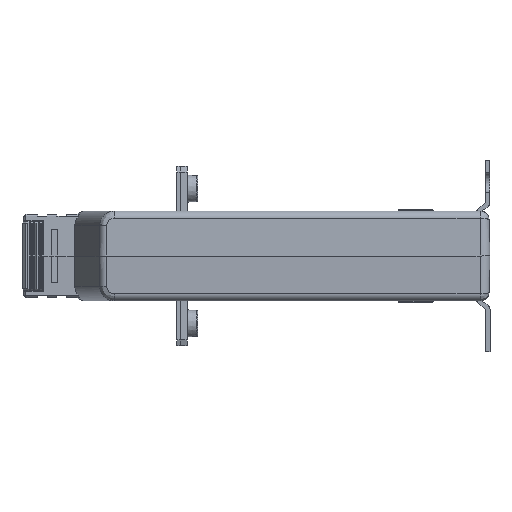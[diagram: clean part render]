
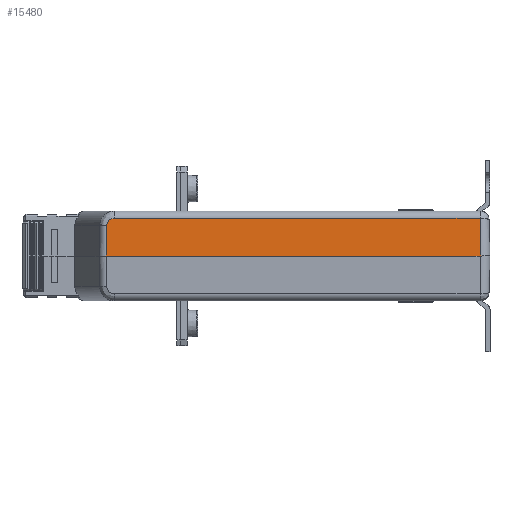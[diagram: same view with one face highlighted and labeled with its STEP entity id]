
A CAD part, left-side view. The second image highlights one B-rep face of the part: STEP entity #15480.
In plain terms, the highlighted planar face has unit normal (-1, 0, 0.026).
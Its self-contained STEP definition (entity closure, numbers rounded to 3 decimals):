
#733 = ORIENTED_EDGE ( 'NONE', *, *, #53044, .T. ) ;
#767 = DIRECTION ( 'NONE',  ( -0.026, 0.018, -0.999 ) ) ;
#1279 = CARTESIAN_POINT ( 'NONE',  ( -64.439, 58.007, 2.345 ) ) ;
#1653 = CARTESIAN_POINT ( 'NONE',  ( -64.231, 57.859, 10.256 ) ) ;
#2569 = ORIENTED_EDGE ( 'NONE', *, *, #59515, .T. ) ;
#2594 = VECTOR ( 'NONE', #6390, 1000. ) ;
#6390 = DIRECTION ( 'NONE',  ( 0., -1., 0. ) ) ;
#7198 = VERTEX_POINT ( 'NONE', #90713 ) ;
#8492 = CARTESIAN_POINT ( 'NONE',  ( -64.5, 58.05, 0. ) ) ;
#9454 = CARTESIAN_POINT ( 'NONE',  ( -64.171, 55.228, 12.565 ) ) ;
#15227 = CARTESIAN_POINT ( 'NONE',  ( -64.5, -70., 0. ) ) ;
#15480 = ADVANCED_FACE ( 'NONE', ( #44275 ), #69292, .T. ) ;
#31261 = ORIENTED_EDGE ( 'NONE', *, *, #88405, .T. ) ;
#32880 = EDGE_CURVE ( 'NONE', #74099, #45998, #87053, .T. ) ;
#33866 = CARTESIAN_POINT ( 'NONE',  ( -64.195, 57.76, 11.63 ) ) ;
#37409 = VERTEX_POINT ( 'NONE', #42409 ) ;
#37910 = ORIENTED_EDGE ( 'NONE', *, *, #32880, .T. ) ;
#38154 = AXIS2_PLACEMENT_3D ( 'NONE', #68765, #91134, #52592 ) ;
#39420 = DIRECTION ( 'NONE',  ( 0., 1., 0. ) ) ;
#42409 = CARTESIAN_POINT ( 'NONE',  ( -64.171, 55.228, 12.565 ) ) ;
#43606 = LINE ( 'NONE', #59742, #61073 ) ;
#43823 = VERTEX_POINT ( 'NONE', #99128 ) ;
#44275 = FACE_OUTER_BOUND ( 'NONE', #70052, .T. ) ;
#44949 = CARTESIAN_POINT ( 'NONE',  ( -64.234, 57.864, 10.173 ) ) ;
#45998 = VERTEX_POINT ( 'NONE', #8492 ) ;
#47149 = EDGE_CURVE ( 'NONE', #90811, #37409, #83215, .T. ) ;
#52592 = DIRECTION ( 'NONE',  ( 0.026, 0., 1. ) ) ;
#53044 = EDGE_CURVE ( 'NONE', #37409, #7198, #95550, .T. ) ;
#54686 = LINE ( 'NONE', #15227, #2594 ) ;
#59515 = EDGE_CURVE ( 'NONE', #45998, #43823, #54686, .T. ) ;
#59742 = CARTESIAN_POINT ( 'NONE',  ( -64.502, -67.003, -0.078 ) ) ;
#61073 = VECTOR ( 'NONE', #92026, 1000. ) ;
#63406 = VECTOR ( 'NONE', #767, 1000. ) ;
#65355 = CARTESIAN_POINT ( 'NONE',  ( -64.233, 57.862, 10.215 ) ) ;
#68765 = CARTESIAN_POINT ( 'NONE',  ( -64.5, -70., 0. ) ) ;
#69292 = PLANE ( 'NONE',  #38154 ) ;
#70052 = EDGE_LOOP ( 'NONE', ( #733, #31261, #37910, #2569, #82742, #73712 ) ) ;
#72895 = CARTESIAN_POINT ( 'NONE',  ( -64.171, 56.694, 12.565 ) ) ;
#73712 = ORIENTED_EDGE ( 'NONE', *, *, #47149, .T. ) ;
#74099 = VERTEX_POINT ( 'NONE', #91280 ) ;
#77031 = EDGE_CURVE ( 'NONE', #43823, #90811, #43606, .T. ) ;
#80969 = CARTESIAN_POINT ( 'NONE',  ( -64.231, 57.859, 10.256 ) ) ;
#82742 = ORIENTED_EDGE ( 'NONE', *, *, #77031, .T. ) ;
#82979 = CARTESIAN_POINT ( 'NONE',  ( -64.235, 57.864, 10.131 ) ) ;
#83215 = LINE ( 'NONE', #94598, #97617 ) ;
#87053 = LINE ( 'NONE', #1279, #63406 ) ;
#88405 = EDGE_CURVE ( 'NONE', #7198, #74099, #102400, .T. ) ;
#90713 = CARTESIAN_POINT ( 'NONE',  ( -64.231, 57.859, 10.256 ) ) ;
#90811 = VERTEX_POINT ( 'NONE', #100852 ) ;
#91134 = DIRECTION ( 'NONE',  ( -1., 0., 0.026 ) ) ;
#91280 = CARTESIAN_POINT ( 'NONE',  ( -64.235, 57.864, 10.131 ) ) ;
#92026 = DIRECTION ( 'NONE',  ( 0.026, 0.026, 0.999 ) ) ;
#94598 = CARTESIAN_POINT ( 'NONE',  ( -64.171, -70., 12.565 ) ) ;
#95550 =( BOUNDED_CURVE ( )  B_SPLINE_CURVE ( 3, ( #9454, #72895, #33866, #1653 ),
 .UNSPECIFIED., .F., .F. ) 
 B_SPLINE_CURVE_WITH_KNOTS ( ( 4, 4 ),
 ( 4.789, 6.283 ),
 .UNSPECIFIED. ) 
 CURVE ( )  GEOMETRIC_REPRESENTATION_ITEM ( )  RATIONAL_B_SPLINE_CURVE ( ( 1., 0.822, 0.822, 1. ) ) 
 REPRESENTATION_ITEM ( '' )  );
#97617 = VECTOR ( 'NONE', #39420, 1000. ) ;
#99128 = CARTESIAN_POINT ( 'NONE',  ( -64.5, -67.001, 0. ) ) ;
#100852 = CARTESIAN_POINT ( 'NONE',  ( -64.171, -66.672, 12.565 ) ) ;
#102400 =( BOUNDED_CURVE ( )  B_SPLINE_CURVE ( 3, ( #80969, #65355, #44949, #82979 ),
 .UNSPECIFIED., .F., .F. ) 
 B_SPLINE_CURVE_WITH_KNOTS ( ( 4, 4 ),
 ( 0., 0.05 ),
 .UNSPECIFIED. ) 
 CURVE ( )  GEOMETRIC_REPRESENTATION_ITEM ( )  RATIONAL_B_SPLINE_CURVE ( ( 1., 1., 1., 1. ) ) 
 REPRESENTATION_ITEM ( '' )  );
